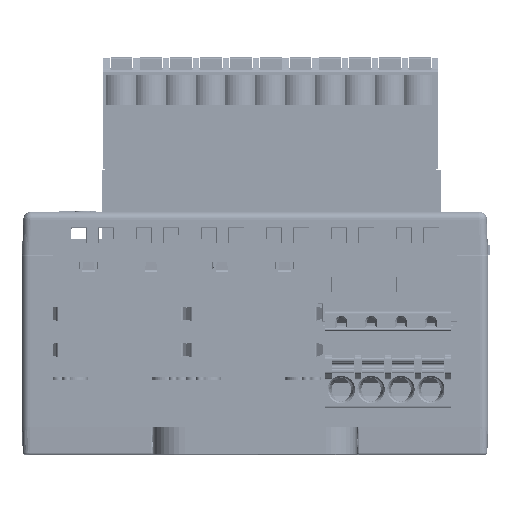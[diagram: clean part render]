
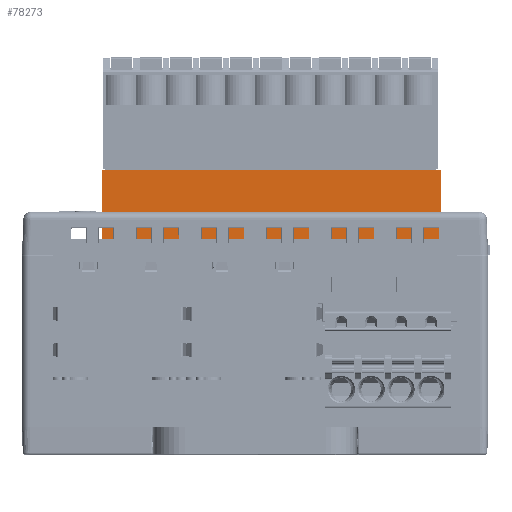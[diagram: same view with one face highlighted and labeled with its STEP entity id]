
A CAD part, front view. The second image highlights one B-rep face of the part: STEP entity #78273.
In plain terms, the highlighted planar face has unit normal (0, -1, 0).
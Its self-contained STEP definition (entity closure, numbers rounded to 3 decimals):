
#575=DIRECTION('',(1.,0.,0.));
#576=VECTOR('',#575,43.3);
#577=CARTESIAN_POINT('',(-19.55,-19.15,27.5));
#578=LINE('',#577,#576);
#3011=DIRECTION('',(0.,0.,-1.));
#3012=VECTOR('',#3011,8.8);
#3013=CARTESIAN_POINT('',(23.75,-19.15,36.3));
#3014=LINE('',#3013,#3012);
#3019=DIRECTION('',(0.,0.,-1.));
#3020=VECTOR('',#3019,8.8);
#3021=CARTESIAN_POINT('',(-19.55,-19.15,36.3));
#3022=LINE('',#3021,#3020);
#3023=DIRECTION('',(-1.,0.,0.));
#3024=VECTOR('',#3023,43.3);
#3025=CARTESIAN_POINT('',(23.75,-19.15,36.3));
#3026=LINE('',#3025,#3024);
#58118=CARTESIAN_POINT('',(-19.55,-19.15,36.3));
#58120=VERTEX_POINT('',#58118);
#58124=CARTESIAN_POINT('',(23.75,-19.15,36.3));
#58125=VERTEX_POINT('',#58124);
#72163=CARTESIAN_POINT('',(-19.55,-19.15,27.5));
#72165=VERTEX_POINT('',#72163);
#72166=CARTESIAN_POINT('',(23.75,-19.15,27.5));
#72167=VERTEX_POINT('',#72166);
#78261=CARTESIAN_POINT('',(2.1,-19.15,31.7));
#78262=DIRECTION('',(0.,1.,0.));
#78263=DIRECTION('',(1.,0.,0.));
#78264=AXIS2_PLACEMENT_3D('',#78261,#78262,#78263);
#78265=PLANE('',#78264);
#78266=ORIENTED_EDGE('',*,*,#74418,.F.);
#78267=ORIENTED_EDGE('',*,*,#78207,.F.);
#78269=ORIENTED_EDGE('',*,*,#78268,.F.);
#78270=ORIENTED_EDGE('',*,*,#78246,.T.);
#78271=EDGE_LOOP('',(#78266,#78267,#78269,#78270));
#78272=FACE_OUTER_BOUND('',#78271,.F.);
#78273=ADVANCED_FACE('',(#78272),#78265,.F.);
#74418=EDGE_CURVE('',#72165,#72167,#578,.T.);
#78207=EDGE_CURVE('',#58120,#72165,#3022,.T.);
#78246=EDGE_CURVE('',#58125,#72167,#3014,.T.);
#78268=EDGE_CURVE('',#58125,#58120,#3026,.T.);
